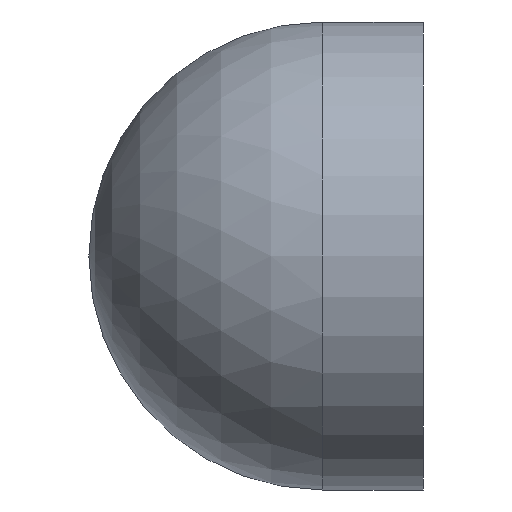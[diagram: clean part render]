
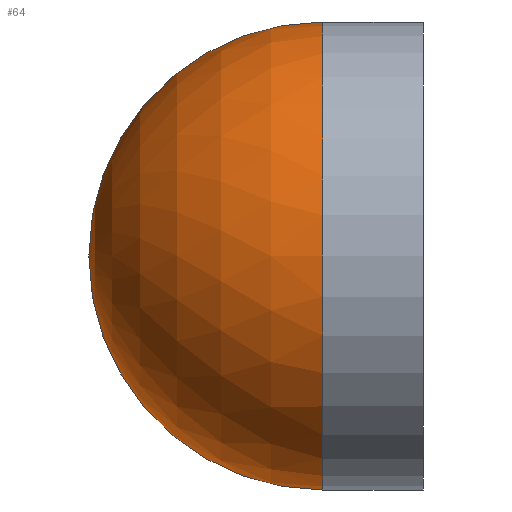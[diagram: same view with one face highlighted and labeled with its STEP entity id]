
A CAD part, front view. The second image highlights one B-rep face of the part: STEP entity #64.
In plain terms, the highlighted spherical face has radius 35 mm.
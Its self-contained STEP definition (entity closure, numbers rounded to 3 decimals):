
#64=ADVANCED_FACE('',(#150),#152,.T.);
#150=FACE_BOUND('',#151,.T.);
#151=EDGE_LOOP('',(#194,#195,#196));
#152=SPHERICAL_SURFACE('',#153,35.);
#153=AXIS2_PLACEMENT_3D('',#154,#155,#156);
#154=CARTESIAN_POINT('',(-165.,-90.,-50.));
#155=DIRECTION('',(-1.,0.,0.));
#156=DIRECTION('',(0.,0.,-1.));
#194=ORIENTED_EDGE('',*,*,#216,.T.);
#195=ORIENTED_EDGE('',*,*,#215,.F.);
#196=ORIENTED_EDGE('',*,*,#211,.T.);
#211=EDGE_CURVE('',#238,#225,#243,.T.);
#215=EDGE_CURVE('',#238,#248,#249,.T.);
#216=EDGE_CURVE('',#225,#248,#250,.T.);
#225=VERTEX_POINT('',#271);
#238=VERTEX_POINT('',#300);
#243=CIRCLE('',#311,35.);
#248=VERTEX_POINT('',#328);
#249=CIRCLE('',#329,35.);
#250=CIRCLE('',#333,35.);
#271=CARTESIAN_POINT('',(-165.,-90.,-15.));
#300=CARTESIAN_POINT('',(-165.,-90.,-85.));
#311=AXIS2_PLACEMENT_3D('',#312,#313,#314);
#312=CARTESIAN_POINT('',(-165.,-90.,-50.));
#313=DIRECTION('',(-1.,0.,0.));
#314=DIRECTION('',(0.,0.,-1.));
#328=CARTESIAN_POINT('',(-200.,-90.,-50.));
#329=AXIS2_PLACEMENT_3D('',#330,#331,#332);
#330=CARTESIAN_POINT('',(-165.,-90.,-50.));
#331=DIRECTION('',(0.,1.,0.));
#332=DIRECTION('',(0.,0.,-1.));
#333=AXIS2_PLACEMENT_3D('',#334,#335,#336);
#334=CARTESIAN_POINT('',(-165.,-90.,-50.));
#335=DIRECTION('',(0.,-1.,0.));
#336=DIRECTION('',(0.,0.,1.));
